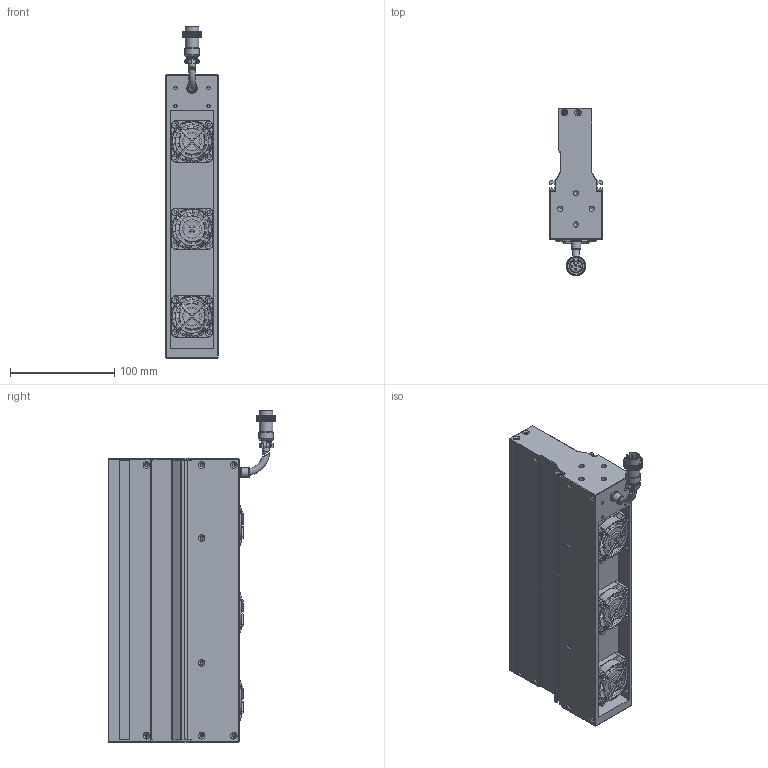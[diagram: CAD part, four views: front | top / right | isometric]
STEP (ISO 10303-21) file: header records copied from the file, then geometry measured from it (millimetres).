
FILE_DESCRIPTION (( 'STEP AP203' ), '1' );
FILE_NAME ('OPT-LSSC272-W-V3.1尨砩芞.STEP', '2025-02-05T02:10:01', ( 'USER' ), ( '' ), 'SwSTEP 2.0', 'SolidWorks 2016', '' );
FILE_SCHEMA (( 'CONFIG_CONTROL_DESIGN' ));
Length unit declared in the file: millimetre
Products named in the file (2): OPT-LSSC272-W-V3.1尨砩芞
Bounding box: 50 x 160.65 x 318.83 mm (x, y, z)
Volume: 1059660.4 mm3; surface area: 211784.5 mm2
Topology: 17 solids, 25 shells, 3967 faces, 8834 edges, 5002 vertices
Faces by surface type: bspline 2140, cylinder 829, plane 816, torus 119, cone 63
Full cylindrical faces by diameter (mm): 0.95 x6, 1.6 x12, 2 x7, 2.5 x20, 3.2 x16, 3.4 x22, 4 x4, 5 x8, 6.2 x12, 6.4 x3, 7.5 x1, 8.6 x1, 9.3 x1, 9.8 x1, 10 x1, 13.2 x1, 14 x1, 16.1 x1, 24.8 x3, 38 x3
Entity records: 133240 total; most frequent: CARTESIAN_POINT 65880, ORIENTED_EDGE 16992, EDGE_CURVE 8496, DIRECTION 7210, B_SPLINE_CURVE_WITH_KNOTS 5731, VERTEX_POINT 4919, EDGE_LOOP 4339, FACE_OUTER_BOUND 4153
